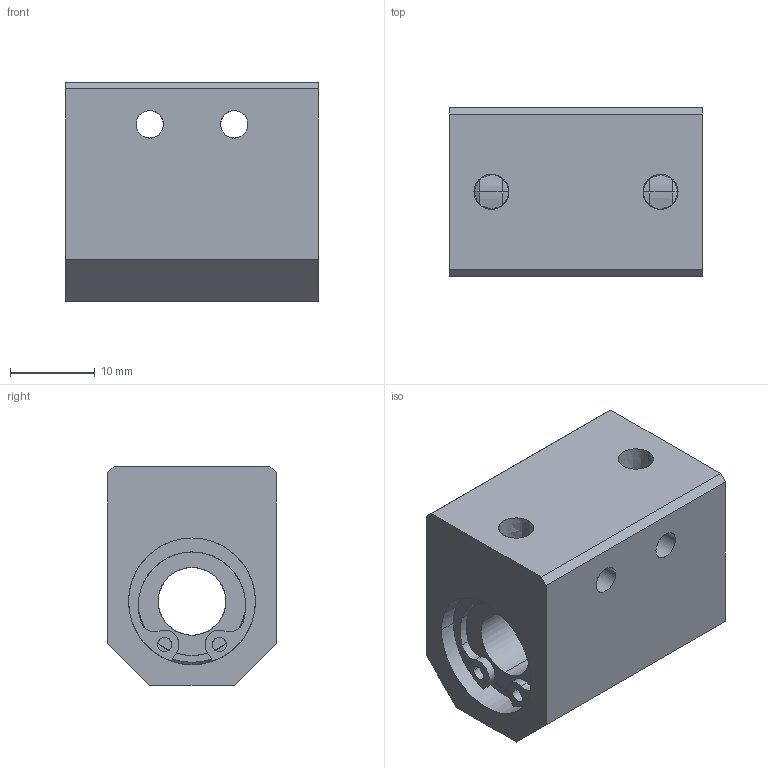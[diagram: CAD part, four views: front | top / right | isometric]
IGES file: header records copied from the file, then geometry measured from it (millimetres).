
Global section: file name: No Iges File Name specified; native system: AutoDesk Inventor R10; preprocessor: AutoDesk Inventor Iges Exporter R10; author: No Author specified; organization: No Organization specified; date: 20101213.093756; units: millimetre
Bounding box: 30 x 20 x 26 mm (x, y, z)
Surface area: 5495.4 mm2 (no closed solid volume)
Topology: 0 solids, 0 shells, 106 faces, 834 edges, 834 vertices
Faces by surface type: bspline 106
